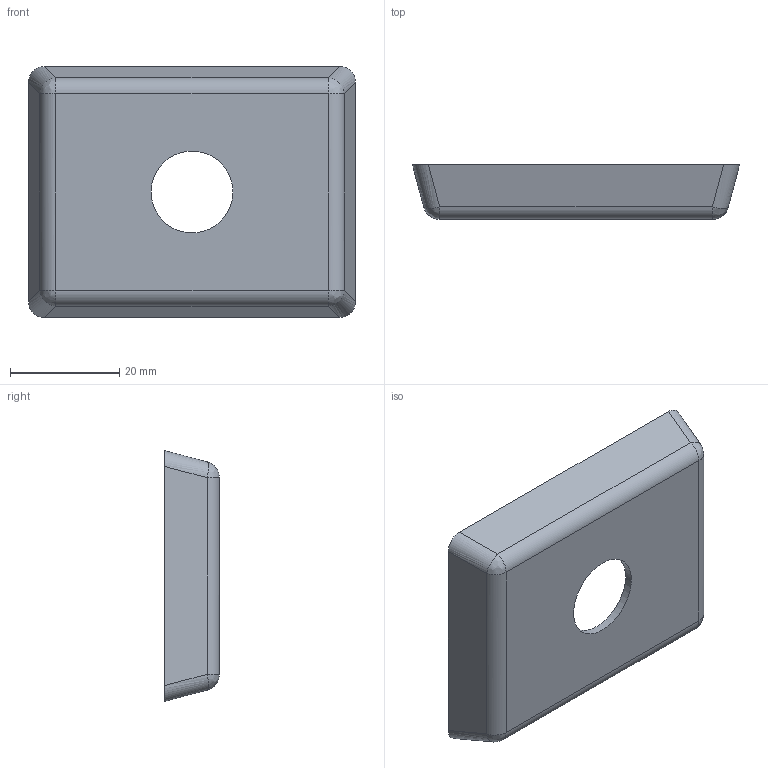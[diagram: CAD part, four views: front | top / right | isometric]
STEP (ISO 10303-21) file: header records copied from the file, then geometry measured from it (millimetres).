
FILE_DESCRIPTION(('STEP AP214'),'1');
FILE_NAME('pim0002077.stp','2015-03-18T10:44:17',('CAD-PIM'),('TransMagic, Inc.'),'TMR11sp0','TransMagic R11',' ');
FILE_SCHEMA(('AUTOMOTIVE_DESIGN'));
Length unit declared in the file: millimetre
Products named in the file (1): pim0002077
Bounding box: 60 x 10 x 46 mm (x, y, z)
Volume: 6485.4 mm3; surface area: 8930.3 mm2
Topology: 1 solids, 1 shells, 253 faces, 662 edges, 438 vertices
Faces by surface type: bspline 253
Entity records: 10473 total; most frequent: CARTESIAN_POINT 4473, ORIENTED_EDGE 1324, EDGE_CURVE 662, B_SPLINE_CURVE_WITH_KNOTS 542, VERTEX_POINT 438, EDGE_LOOP 282, STYLED_ITEM 254, PRESENTATION_STYLE_ASSIGNMENT 254
